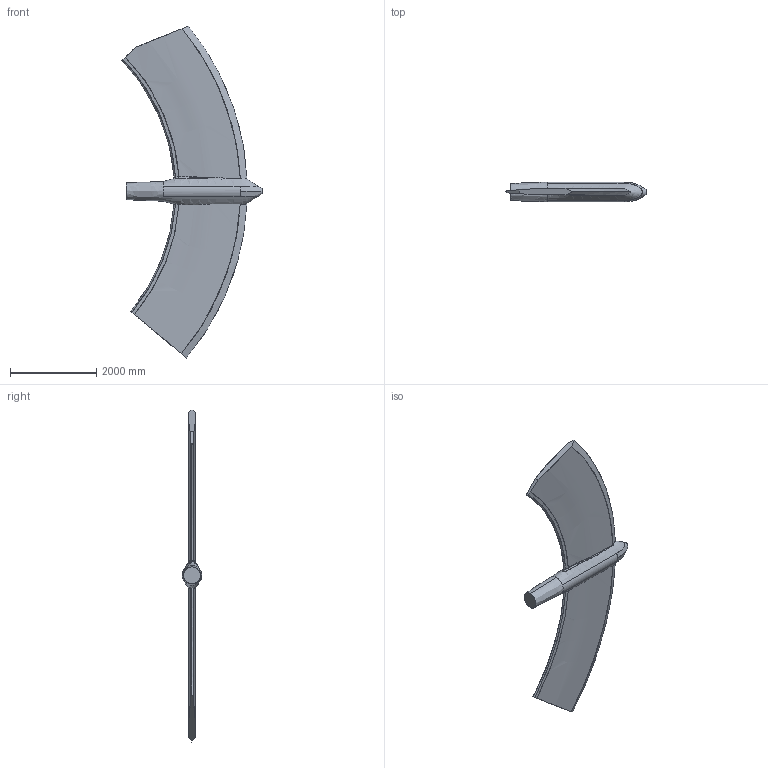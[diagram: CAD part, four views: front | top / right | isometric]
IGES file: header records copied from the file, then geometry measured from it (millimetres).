
Global section: file name: Z:\prj2.1\wind_tunnels\NTF\outgoing\geometry\Rumsey\NTF_Arc_Sector_2024_10_10\NTF_arc_sector_fwd_rotational_0deg.igs; native system: NX V12.0; preprocessor: SIEMENS PLM Software NX 12.0; date: 20241010.121254; units: inch
Bounding box: 3240.67 x 456.52 x 7681.18 mm (x, y, z)
Surface area: 28157223.2 mm2 (no closed solid volume)
Topology: 0 solids, 0 shells, 34 faces, 575 edges, 571 vertices
Faces by surface type: bspline 34
